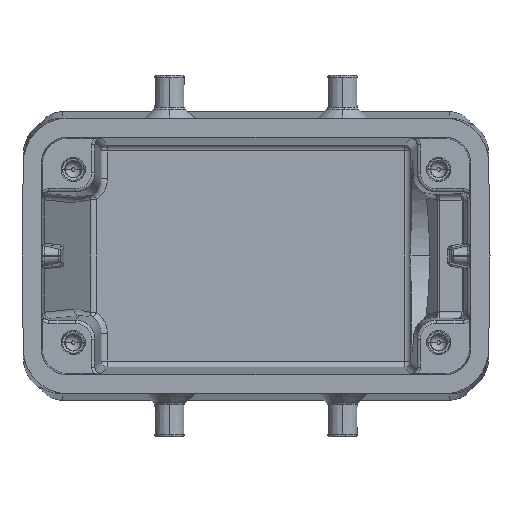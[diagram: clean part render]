
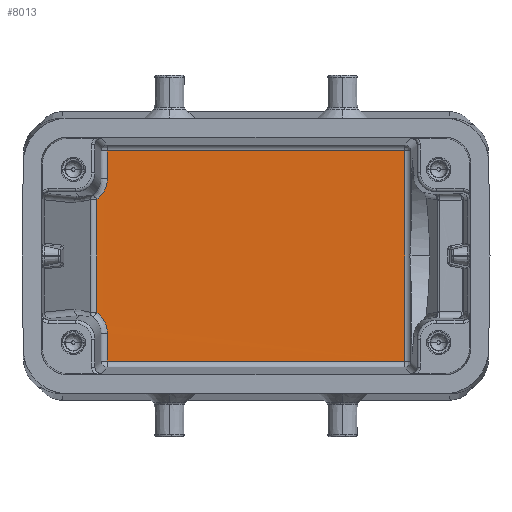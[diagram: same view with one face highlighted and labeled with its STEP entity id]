
A CAD part, front view. The second image highlights one B-rep face of the part: STEP entity #8013.
In plain terms, the highlighted planar face has unit normal (0, 1, 0).
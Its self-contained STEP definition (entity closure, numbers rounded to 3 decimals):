
#466 = ORIENTED_EDGE ( 'NONE', *, *, #20428, .F. ) ;
#1008 = CARTESIAN_POINT ( 'NONE',  ( -23.401, 65.008, 10.75 ) ) ;
#1082 = CARTESIAN_POINT ( 'NONE',  ( 23.19, 65., 16.383 ) ) ;
#1137 = CARTESIAN_POINT ( 'NONE',  ( -23.199, 65.002, 11.722 ) ) ;
#1207 = CARTESIAN_POINT ( 'NONE',  ( -23.236, 65.005, 11.409 ) ) ;
#1278 = CARTESIAN_POINT ( 'NONE',  ( -23.633, 65.008, -10.209 ) ) ;
#1354 = ORIENTED_EDGE ( 'NONE', *, *, #14007, .F. ) ;
#2659 = CARTESIAN_POINT ( 'NONE',  ( -23.362, 65.007, 10.872 ) ) ;
#2789 = CARTESIAN_POINT ( 'NONE',  ( -23.613, 65.008, 10.248 ) ) ;
#2797 = CARTESIAN_POINT ( 'NONE',  ( -23.637, 65.008, -10.201 ) ) ;
#2858 = CARTESIAN_POINT ( 'NONE',  ( -23.909, 65.008, -9.746 ) ) ;
#2918 = CARTESIAN_POINT ( 'NONE',  ( 0., 65., -16.383 ) ) ;
#2927 = CARTESIAN_POINT ( 'NONE',  ( -23.688, 65.008, -10.104 ) ) ;
#4162 = ORIENTED_EDGE ( 'NONE', *, *, #12720, .F. ) ;
#4297 = CARTESIAN_POINT ( 'NONE',  ( -23.62, 65.008, 10.235 ) ) ;
#4433 = CARTESIAN_POINT ( 'NONE',  ( -24.688, 65.001, 8.912 ) ) ;
#4446 = CARTESIAN_POINT ( 'NONE',  ( -23.767, 65.008, -9.968 ) ) ;
#4585 = CARTESIAN_POINT ( 'NONE',  ( -23.545, 65.008, 10.39 ) ) ;
#4589 = ORIENTED_EDGE ( 'NONE', *, *, #6550, .F. ) ;
#4594 = CARTESIAN_POINT ( 'NONE',  ( -23.63, 65.008, -10.214 ) ) ;
#4664 = CARTESIAN_POINT ( 'NONE',  ( -23.803, 65.008, -9.911 ) ) ;
#4779 = FACE_OUTER_BOUND ( 'NONE', #15810, .T. ) ;
#4897 = LINE ( 'NONE', #11363, #10514 ) ;
#5012 = VECTOR ( 'NONE', #5704, 1000. ) ;
#5444 = CARTESIAN_POINT ( 'NONE',  ( 0., 65., 0. ) ) ;
#5704 = DIRECTION ( 'NONE',  ( -1., 0., 0. ) ) ;
#5784 = CARTESIAN_POINT ( 'NONE',  ( -24.849, 65., 8.795 ) ) ;
#6094 = CARTESIAN_POINT ( 'NONE',  ( -24.849, 65., 8.795 ) ) ;
#6550 = EDGE_CURVE ( 'NONE', #8934, #17809, #18919, .T. ) ;
#6556 = LINE ( 'NONE', #20515, #5012 ) ;
#6678 = CARTESIAN_POINT ( 'NONE',  ( -23.19, 65., 0. ) ) ;
#7232 = EDGE_CURVE ( 'NONE', #14397, #8934, #6556, .T. ) ;
#7473 = LINE ( 'NONE', #11739, #15681 ) ;
#7537 = CARTESIAN_POINT ( 'NONE',  ( -23.501, 65.008, 10.491 ) ) ;
#7608 = CARTESIAN_POINT ( 'NONE',  ( -23.569, 65.008, 10.339 ) ) ;
#7813 = CARTESIAN_POINT ( 'NONE',  ( -24.65, 65.002, -8.947 ) ) ;
#7843 = CARTESIAN_POINT ( 'NONE',  ( -24.849, 65., -2.931 ) ) ;
#7897 = CARTESIAN_POINT ( 'NONE',  ( -23.19, 65.001, -11.831 ) ) ;
#8013 = ADVANCED_FACE ( 'NONE', ( #4779 ), #13497, .F. ) ;
#8934 = VERTEX_POINT ( 'NONE', #9401 ) ;
#9036 = CARTESIAN_POINT ( 'NONE',  ( -23.19, 65., -12.039 ) ) ;
#9251 = CARTESIAN_POINT ( 'NONE',  ( -24.487, 65.003, 9.074 ) ) ;
#9310 = CARTESIAN_POINT ( 'NONE',  ( -23.189, 65., 11.999 ) ) ;
#9401 = CARTESIAN_POINT ( 'NONE',  ( -23.19, 65., 16.383 ) ) ;
#9413 = ORIENTED_EDGE ( 'NONE', *, *, #17915, .F. ) ;
#9462 = CARTESIAN_POINT ( 'NONE',  ( -23.658, 65.008, -10.16 ) ) ;
#9666 = VERTEX_POINT ( 'NONE', #5784 ) ;
#9695 = CARTESIAN_POINT ( 'NONE',  ( -23.644, 65.008, -10.189 ) ) ;
#10111 = DIRECTION ( 'NONE',  ( 0., 0., -1. ) ) ;
#10514 = VECTOR ( 'NONE', #17845, 1000. ) ;
#11102 = CARTESIAN_POINT ( 'NONE',  ( -24.192, 65.006, -9.38 ) ) ;
#11158 = ORIENTED_EDGE ( 'NONE', *, *, #14854, .F. ) ;
#11363 = CARTESIAN_POINT ( 'NONE',  ( 23.19, 65., 0. ) ) ;
#11474 = VERTEX_POINT ( 'NONE', #16993 ) ;
#11602 = VECTOR ( 'NONE', #14510, 1000. ) ;
#11739 = CARTESIAN_POINT ( 'NONE',  ( -23.19, 65., 0. ) ) ;
#11744 = CARTESIAN_POINT ( 'NONE',  ( 23.19, 65., -16.383 ) ) ;
#12208 = ORIENTED_EDGE ( 'NONE', *, *, #7232, .F. ) ;
#12235 = VERTEX_POINT ( 'NONE', #11744 ) ;
#12362 = ORIENTED_EDGE ( 'NONE', *, *, #16864, .F. ) ;
#12611 = CARTESIAN_POINT ( 'NONE',  ( -23.598, 65.008, 10.278 ) ) ;
#12675 = CARTESIAN_POINT ( 'NONE',  ( -23.624, 65.008, 10.226 ) ) ;
#12682 = CARTESIAN_POINT ( 'NONE',  ( -24.555, 65.003, -9.025 ) ) ;
#12720 = EDGE_CURVE ( 'NONE', #16618, #17550, #13351, .T. ) ;
#12902 = CARTESIAN_POINT ( 'NONE',  ( -24.79, 65., -8.838 ) ) ;
#13351 = B_SPLINE_CURVE_WITH_KNOTS ( 'NONE', 3,
 ( #20830, #15607, #12902, #7813, #12682, #17745, #11102, #17600, #2858, #4664, #4446, #20962, #2927, #9462, #9695, #2797, #1278, #4594, #17676, #14446, #16013, #7897, #20890 ),
 .UNSPECIFIED., .F., .F.,
 ( 4, 2, 2, 2, 2, 2, 1, 1, 1, 2, 2, 2, 4 ),
 ( 0., 0.125, 0.25, 0.375, 0.437, 0.469, 0.484, 0.492, 0.496, 0.498, 0.5, 0.75, 1. ),
 .UNSPECIFIED. ) ;
#13497 = PLANE ( 'NONE',  #13851 ) ;
#13851 = AXIS2_PLACEMENT_3D ( 'NONE', #5444, #15299, #16960 ) ;
#13904 = CARTESIAN_POINT ( 'NONE',  ( -24.849, 65., -8.795 ) ) ;
#14007 = EDGE_CURVE ( 'NONE', #9666, #16618, #16882, .T. ) ;
#14261 = CARTESIAN_POINT ( 'NONE',  ( -24.849, 65., 8.795 ) ) ;
#14295 = CARTESIAN_POINT ( 'NONE',  ( -23.194, 65.001, 11.841 ) ) ;
#14397 = VERTEX_POINT ( 'NONE', #1082 ) ;
#14446 = CARTESIAN_POINT ( 'NONE',  ( -23.328, 65.006, -10.95 ) ) ;
#14510 = DIRECTION ( 'NONE',  ( 1., 0., 0. ) ) ;
#14854 = EDGE_CURVE ( 'NONE', #11474, #12235, #20356, .T. ) ;
#15299 = DIRECTION ( 'NONE',  ( 0., -1., 0. ) ) ;
#15607 = CARTESIAN_POINT ( 'NONE',  ( -24.834, 65., -8.806 ) ) ;
#15681 = VECTOR ( 'NONE', #18366, 1000. ) ;
#15806 = CARTESIAN_POINT ( 'NONE',  ( -23.627, 65.008, 10.22 ) ) ;
#15810 = EDGE_LOOP ( 'NONE', ( #4162, #1354, #466, #4589, #12208, #12362, #11158, #9413 ) ) ;
#15875 = CARTESIAN_POINT ( 'NONE',  ( -23.825, 65.008, 9.833 ) ) ;
#15908 = CARTESIAN_POINT ( 'NONE',  ( -24.849, 65., -8.795 ) ) ;
#16013 = CARTESIAN_POINT ( 'NONE',  ( -23.206, 65.003, -11.568 ) ) ;
#16046 = CARTESIAN_POINT ( 'NONE',  ( -24.849, 65., 2.931 ) ) ;
#16367 = CARTESIAN_POINT ( 'NONE',  ( -23.19, 65., 12.039 ) ) ;
#16618 = VERTEX_POINT ( 'NONE', #13904 ) ;
#16864 = EDGE_CURVE ( 'NONE', #12235, #14397, #4897, .T. ) ;
#16882 = B_SPLINE_CURVE_WITH_KNOTS ( 'NONE', 3,
 ( #14261, #16046, #7843, #15908 ),
 .UNSPECIFIED., .F., .F.,
 ( 4, 4 ),
 ( 0., 1. ),
 .UNSPECIFIED. ) ;
#16960 = DIRECTION ( 'NONE',  ( 0., 0., -1. ) ) ;
#16993 = CARTESIAN_POINT ( 'NONE',  ( -23.19, 65., -16.383 ) ) ;
#17258 = CARTESIAN_POINT ( 'NONE',  ( -23.19, 65., 12.039 ) ) ;
#17402 = CARTESIAN_POINT ( 'NONE',  ( -23.268, 65.006, 11.214 ) ) ;
#17550 = VERTEX_POINT ( 'NONE', #9036 ) ;
#17600 = CARTESIAN_POINT ( 'NONE',  ( -23.981, 65.007, -9.647 ) ) ;
#17623 = VECTOR ( 'NONE', #10111, 1000. ) ;
#17676 = CARTESIAN_POINT ( 'NONE',  ( -23.436, 65.008, -10.593 ) ) ;
#17745 = CARTESIAN_POINT ( 'NONE',  ( -24.326, 65.005, -9.242 ) ) ;
#17809 = VERTEX_POINT ( 'NONE', #16367 ) ;
#17845 = DIRECTION ( 'NONE',  ( 0., 0., 1. ) ) ;
#17915 = EDGE_CURVE ( 'NONE', #17550, #11474, #7473, .T. ) ;
#18245 = B_SPLINE_CURVE_WITH_KNOTS ( 'NONE', 3,
 ( #17258, #18899, #9310, #14295, #1137, #1207, #17402, #2659, #1008, #20883, #7537, #4585, #7608, #12611, #2789, #4297, #12675, #15806, #15875, #19044, #9251, #4433, #6094 ),
 .UNSPECIFIED., .F., .F.,
 ( 4, 2, 2, 2, 2, 2, 1, 1, 1, 2, 2, 2, 4 ),
 ( 0., 0.125, 0.25, 0.375, 0.437, 0.469, 0.484, 0.492, 0.496, 0.498, 0.5, 0.75, 1. ),
 .UNSPECIFIED. ) ;
#18366 = DIRECTION ( 'NONE',  ( 0., 0., -1. ) ) ;
#18899 = CARTESIAN_POINT ( 'NONE',  ( -23.19, 65., 12.039 ) ) ;
#18919 = LINE ( 'NONE', #6678, #17623 ) ;
#19044 = CARTESIAN_POINT ( 'NONE',  ( -24.056, 65.006, 9.534 ) ) ;
#20356 = LINE ( 'NONE', #2918, #11602 ) ;
#20428 = EDGE_CURVE ( 'NONE', #17809, #9666, #18245, .T. ) ;
#20515 = CARTESIAN_POINT ( 'NONE',  ( -25.869, 65., 16.383 ) ) ;
#20830 = CARTESIAN_POINT ( 'NONE',  ( -24.849, 65., -8.795 ) ) ;
#20883 = CARTESIAN_POINT ( 'NONE',  ( -23.474, 65.008, 10.557 ) ) ;
#20890 = CARTESIAN_POINT ( 'NONE',  ( -23.19, 65., -12.039 ) ) ;
#20962 = CARTESIAN_POINT ( 'NONE',  ( -23.715, 65.008, -10.058 ) ) ;
